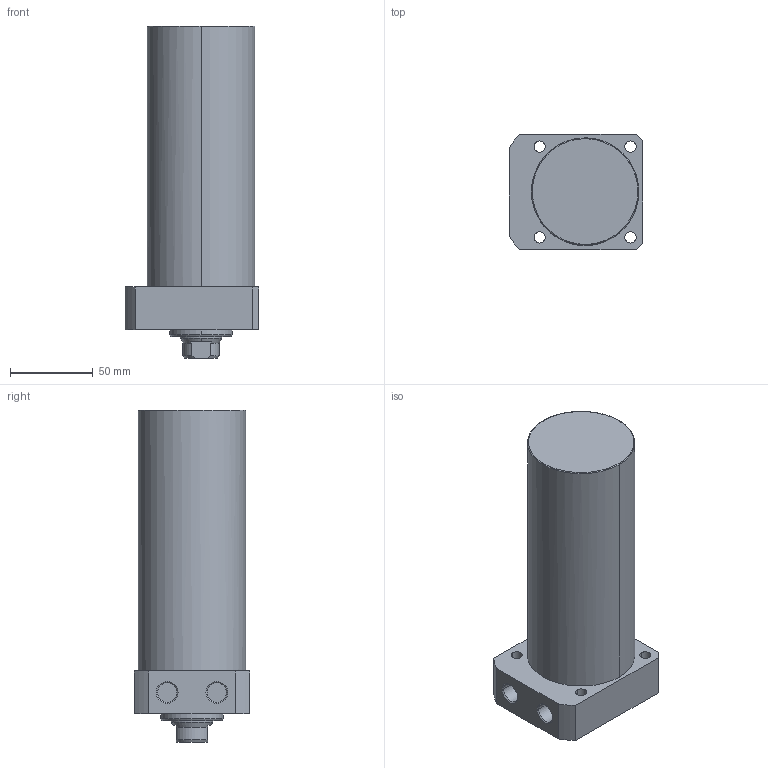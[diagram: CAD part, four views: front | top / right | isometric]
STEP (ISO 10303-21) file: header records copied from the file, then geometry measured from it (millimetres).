
FILE_DESCRIPTION((' '),'2;1');
FILE_NAME( 'TLLR-065CA-125.STEP.stp', '2025-10-24T16:34:54', (' '), ('--- Datakit www.datakit.com---'), ' Datakit CrossCadWare V2024.1 Dec 21 2023', 'Mastercam 2025', ' ');
FILE_SCHEMA(('AUTOMOTIVE_DESIGN { 1 0 10303 214 1 1 1 1 }'));
Length unit declared in the file: millimetre
Products named in the file (1): TLLR-065CA-125
Bounding box: 81 x 70 x 201 mm (x, y, z)
Volume: 668265.5 mm3; surface area: 56694 mm2
Topology: 1 solids, 1 shells, 63 faces, 179 edges, 124 vertices
Faces by surface type: cylinder 28, plane 19, cone 14, torus 2
Entity records: 2174 total; most frequent: DIRECTION 402, CARTESIAN_POINT 397, ORIENTED_EDGE 354, EDGE_CURVE 177, AXIS2_PLACEMENT_3D 169, VERTEX_POINT 124, CIRCLE 105, EDGE_LOOP 79
